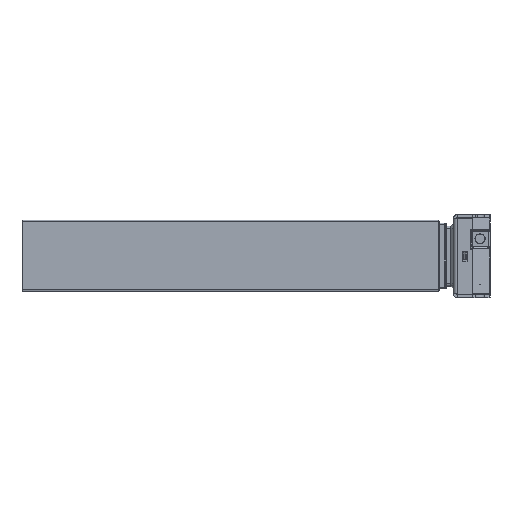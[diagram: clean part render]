
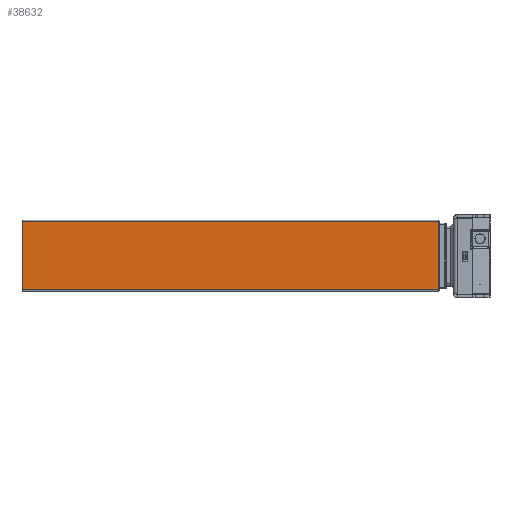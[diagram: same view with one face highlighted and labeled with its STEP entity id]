
A CAD part, left-side view. The second image highlights one B-rep face of the part: STEP entity #38632.
In plain terms, the highlighted planar face has unit normal (-1, 0, 0).
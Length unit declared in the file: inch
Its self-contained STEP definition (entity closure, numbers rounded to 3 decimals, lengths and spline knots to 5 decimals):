
#375 = AXIS2_PLACEMENT_3D ( 'NONE', #37911, #815, #42116 ) ;
#815 = DIRECTION ( 'NONE',  ( 1., 0., 0. ) ) ;
#3469 = CARTESIAN_POINT ( 'NONE',  ( -6.2105, -8.73654, 20.36614 ) ) ;
#4102 = CARTESIAN_POINT ( 'NONE',  ( -6.2105, -8.73654, 23.83071 ) ) ;
#8263 = VERTEX_POINT ( 'NONE', #3469 ) ;
#8700 = DIRECTION ( 'NONE',  ( 0., 0., -1. ) ) ;
#10247 = CARTESIAN_POINT ( 'NONE',  ( -6.2105, 11.97212, 23.83071 ) ) ;
#10908 = CARTESIAN_POINT ( 'NONE',  ( -6.2105, -8.73654, 20.36614 ) ) ;
#11465 = VERTEX_POINT ( 'NONE', #22514 ) ;
#11712 = LINE ( 'NONE', #10247, #29032 ) ;
#12672 = ORIENTED_EDGE ( 'NONE', *, *, #27181, .T. ) ;
#14862 = DIRECTION ( 'NONE',  ( 0., 1., 0. ) ) ;
#16291 = DIRECTION ( 'NONE',  ( 0., -1., 0. ) ) ;
#20754 = FACE_OUTER_BOUND ( 'NONE', #45582, .T. ) ;
#21001 = ORIENTED_EDGE ( 'NONE', *, *, #37076, .F. ) ;
#22514 = CARTESIAN_POINT ( 'NONE',  ( -6.2105, -8.73654, 23.75197 ) ) ;
#22977 = VERTEX_POINT ( 'NONE', #54308 ) ;
#24929 = VECTOR ( 'NONE', #14862, 39.37008 ) ;
#26612 = ORIENTED_EDGE ( 'NONE', *, *, #43279, .T. ) ;
#27181 = EDGE_CURVE ( 'NONE', #11465, #43847, #44956, .T. ) ;
#27562 = CARTESIAN_POINT ( 'NONE',  ( -6.2105, 11.97212, 23.75197 ) ) ;
#27935 = ORIENTED_EDGE ( 'NONE', *, *, #56417, .T. ) ;
#29032 = VECTOR ( 'NONE', #33139, 39.37008 ) ;
#33139 = DIRECTION ( 'NONE',  ( 0., 0., -1. ) ) ;
#37076 = EDGE_CURVE ( 'NONE', #11465, #8263, #43166, .T. ) ;
#37458 = VECTOR ( 'NONE', #16291, 39.37008 ) ;
#37911 = CARTESIAN_POINT ( 'NONE',  ( -6.2105, -8.73654, 23.83071 ) ) ;
#38632 = ADVANCED_FACE ( 'NONE', ( #20754 ), #51912, .F. ) ;
#40243 = VECTOR ( 'NONE', #8700, 39.37008 ) ;
#42116 = DIRECTION ( 'NONE',  ( 0., 0., 1. ) ) ;
#43166 = LINE ( 'NONE', #4102, #40243 ) ;
#43279 = EDGE_CURVE ( 'NONE', #22977, #8263, #57541, .T. ) ;
#43847 = VERTEX_POINT ( 'NONE', #27562 ) ;
#44956 = LINE ( 'NONE', #55759, #24929 ) ;
#45582 = EDGE_LOOP ( 'NONE', ( #21001, #12672, #27935, #26612 ) ) ;
#51912 = PLANE ( 'NONE',  #375 ) ;
#54308 = CARTESIAN_POINT ( 'NONE',  ( -6.2105, 11.97212, 20.36614 ) ) ;
#55759 = CARTESIAN_POINT ( 'NONE',  ( -6.2105, -8.73654, 23.75197 ) ) ;
#56417 = EDGE_CURVE ( 'NONE', #43847, #22977, #11712, .T. ) ;
#57541 = LINE ( 'NONE', #10908, #37458 ) ;
